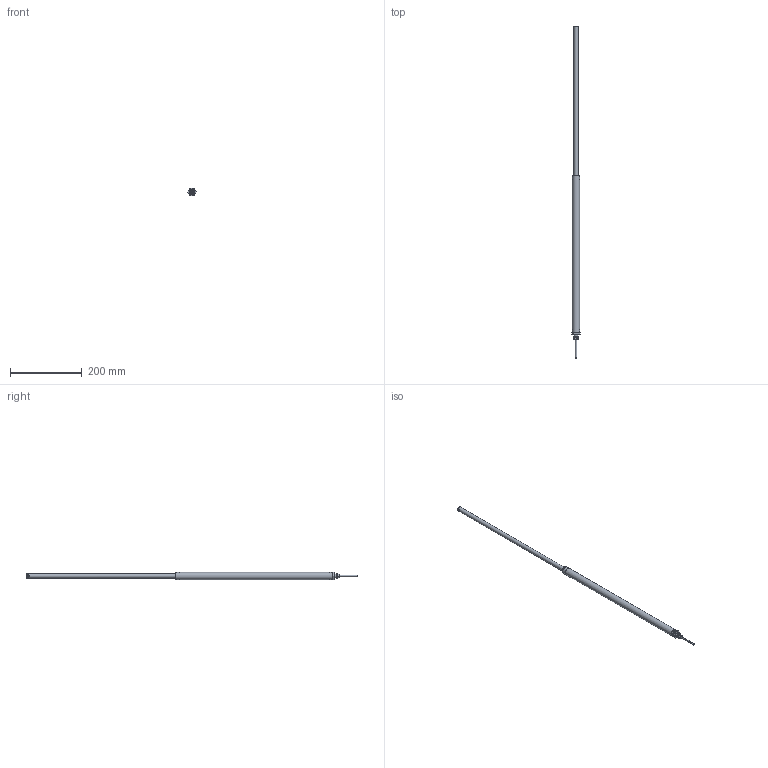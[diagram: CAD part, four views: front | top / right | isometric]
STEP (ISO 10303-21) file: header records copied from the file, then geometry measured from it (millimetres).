
FILE_DESCRIPTION(/* description */ ('Unknown'),/* implementation_level */ '2;1');
FILE_NAME(/* name */ '109.50164 Zylinder CI 1840_ausgefahren',/* time_stamp */ '2018-04-27T13:13:51+02:00',/* author */ ('Unknown'),/* organization */ ('Unknown'),/* preprocessor_version */ 'ST-DEVELOPER v16.7',/* originating_system */ 'DEX',/* authorisation */ $);
FILE_SCHEMA (('AUTOMOTIVE_DESIGN {1 0 10303 214 3 1 1}'));
Length unit declared in the file: millimetre
Products named in the file (9): 109.50164; 121.50004; 142.00021; 125.00021; 115.00008_oa_0; 125.00061; 120.00004; 122.00012; 113.00002_70mm
Assembly tree (8 placements, depth 2):
  109.50164
    121.50004
    142.00021
    125.00021
    115.00008_oa_0
    125.00061
    120.00004
    122.00012
    113.00002_70mm
Bounding box: 23.09 x 926 x 20 mm (x, y, z)
Volume: 81985.1 mm3; surface area: 75184.7 mm2
Topology: 7 solids, 7 shells, 91 faces, 181 edges, 115 vertices
Faces by surface type: plane 37, cylinder 27, cone 22, torus 4, sphere 1
Full cylindrical faces by diameter (mm): 2.2 x1, 3.5 x1, 4 x1, 4.1 x1, 4.2 x1, 6 x1, 6.917 x2, 7.763 x2, 8 x3, 8.1 x3, 12 x2, 12.5 x1, 13 x2, 14.4 x1, 17.9 x2, 18 x2, 20 x1
Entity records: 2689 total; most frequent: CARTESIAN_POINT 403, DIRECTION 384, ORIENTED_EDGE 248, AXIS2_PLACEMENT_3D 174, FACE_BOUND 163, EDGE_LOOP 162, EDGE_CURVE 124, VERTEX_POINT 107
